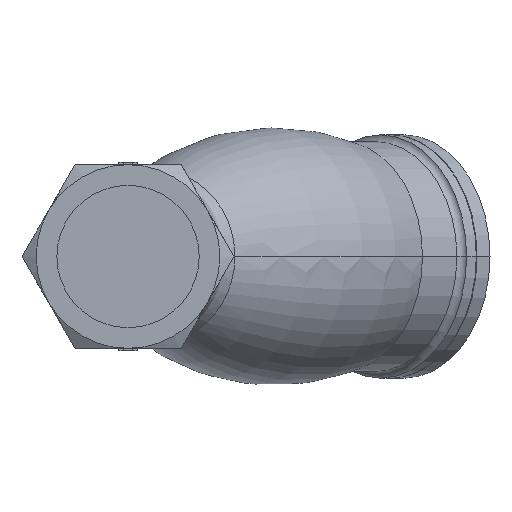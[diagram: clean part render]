
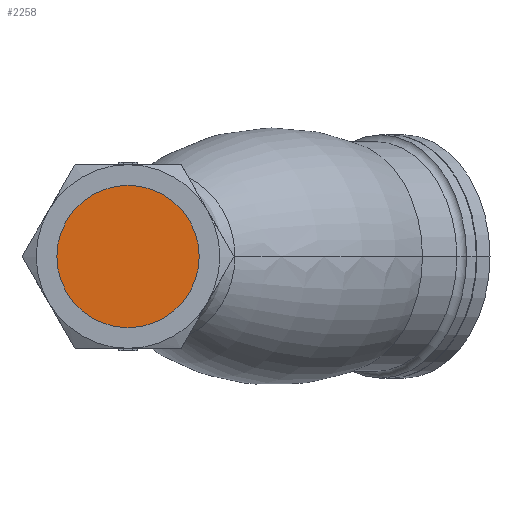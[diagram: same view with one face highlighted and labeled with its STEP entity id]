
A CAD part, left-side view. The second image highlights one B-rep face of the part: STEP entity #2258.
In plain terms, the highlighted planar face has unit normal (-1, 0, 0).
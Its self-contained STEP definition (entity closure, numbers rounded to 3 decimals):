
#131 = CARTESIAN_POINT ( 'NONE',  ( -20.5, 0., 0. ) ) ;
#383 = VERTEX_POINT ( 'NONE', #3101 ) ;
#412 = ORIENTED_EDGE ( 'NONE', *, *, #1229, .T. ) ;
#512 = VERTEX_POINT ( 'NONE', #2689 ) ;
#799 = DIRECTION ( 'NONE',  ( -1., 0., 0. ) ) ;
#944 = AXIS2_PLACEMENT_3D ( 'NONE', #1128, #799, #2491 ) ;
#1128 = CARTESIAN_POINT ( 'NONE',  ( -20.5, 0., 0. ) ) ;
#1229 = EDGE_CURVE ( 'NONE', #383, #512, #2878, .T. ) ;
#1316 = EDGE_CURVE ( 'NONE', #512, #383, #2377, .T. ) ;
#1466 = FACE_OUTER_BOUND ( 'NONE', #2737, .T. ) ;
#1511 = DIRECTION ( 'NONE',  ( -1., 0., 0. ) ) ;
#1595 = AXIS2_PLACEMENT_3D ( 'NONE', #131, #1511, #3885 ) ;
#1845 = PLANE ( 'NONE',  #944 ) ;
#1935 = DIRECTION ( 'NONE',  ( 0., 0., 1. ) ) ;
#1972 = DIRECTION ( 'NONE',  ( -1., 0., 0. ) ) ;
#2078 = ORIENTED_EDGE ( 'NONE', *, *, #1316, .T. ) ;
#2258 = ADVANCED_FACE ( 'NONE', ( #1466 ), #1845, .T. ) ;
#2377 = CIRCLE ( 'NONE', #1595, 15.5 ) ;
#2491 = DIRECTION ( 'NONE',  ( 0., 0., 1. ) ) ;
#2689 = CARTESIAN_POINT ( 'NONE',  ( -20.5, 0., -15.5 ) ) ;
#2737 = EDGE_LOOP ( 'NONE', ( #412, #2078 ) ) ;
#2878 = CIRCLE ( 'NONE', #2941, 15.5 ) ;
#2941 = AXIS2_PLACEMENT_3D ( 'NONE', #3625, #1972, #1935 ) ;
#3101 = CARTESIAN_POINT ( 'NONE',  ( -20.5, 0., 15.5 ) ) ;
#3625 = CARTESIAN_POINT ( 'NONE',  ( -20.5, 0., 0. ) ) ;
#3885 = DIRECTION ( 'NONE',  ( 0., 0., 1. ) ) ;
